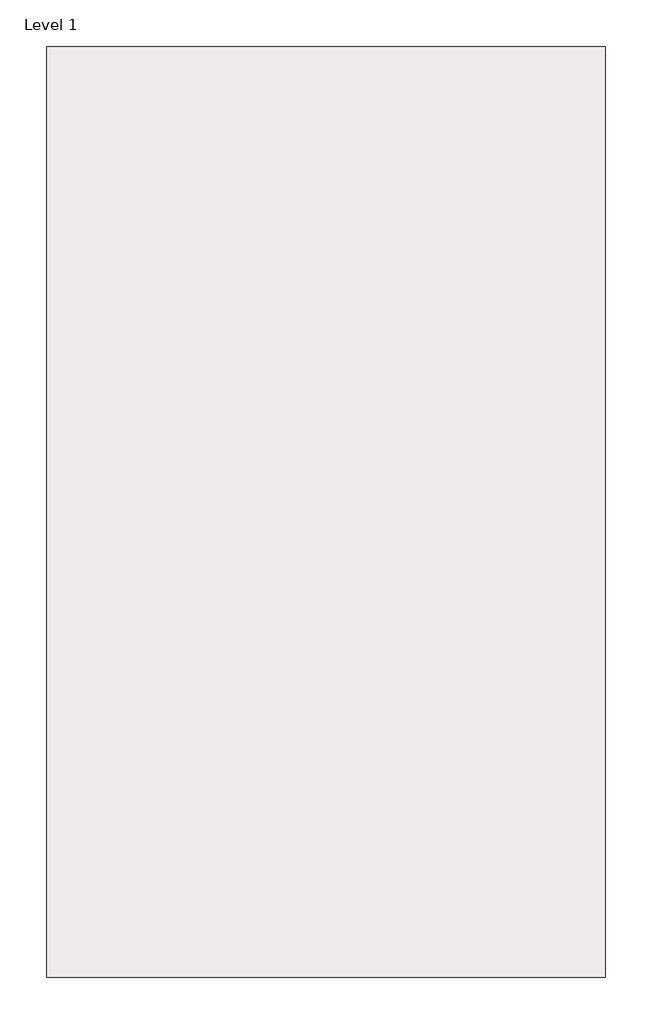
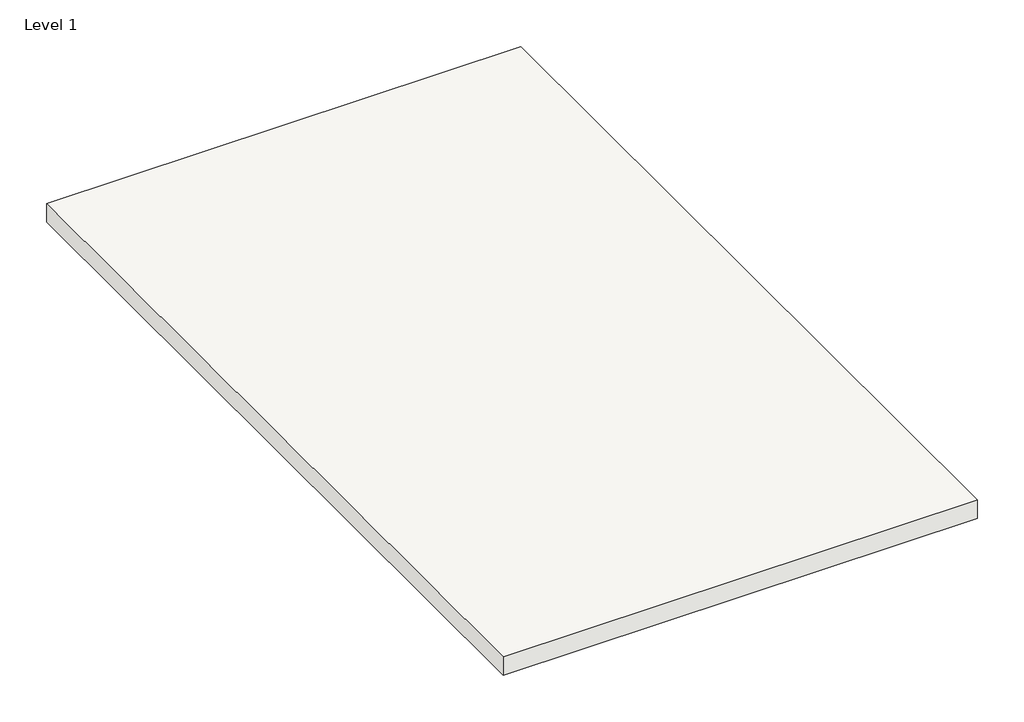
# One storey, incomplete: 1 slab.
"""IFC4 building model written with IfcOpenShell, lengths in millimetres."""

from ifc_helpers import new_model, si_unit, frame, origin, place, context, project, spatial, polyline, outline, extrude, element, save

model = new_model("IFC4")

# Units and contexts
model_context = context("Model", 3, world=origin())
ifc_project = project(units=[si_unit("LENGTHUNIT", "METRE", prefix="MILLI")], contexts=[model_context])

# Site, building, storey
site = spatial("IfcSite", under=ifc_project)
building = spatial("IfcBuilding", under=site)
storey = spatial("IfcBuildingStorey", under=building, Name="Level 1", Elevation=0.0)

# Slab
placement = place(None, origin())
element("IfcSlab", 1, ObjectType="Generic 150mm", at=placement, inside=storey, context=model_context, shape_type="SweptSolid", body=[
    extrude(outline(polyline([(-7741.9884142, -2328.6765724), (-7741.9884142, -8328.6765724), (-11341.9884142, -8328.6765724), (-11341.9884142, -2328.6765724), (-7741.9884142, -2328.6765724)])), frame((0.0, 0.0, -150.0), z_axis=(0.0, 0.0, 1.0), x_axis=(1.0, 0.0, 0.0)), (0.0, 0.0, 1.0), 150.0),
])

save(model, "model.ifc")
